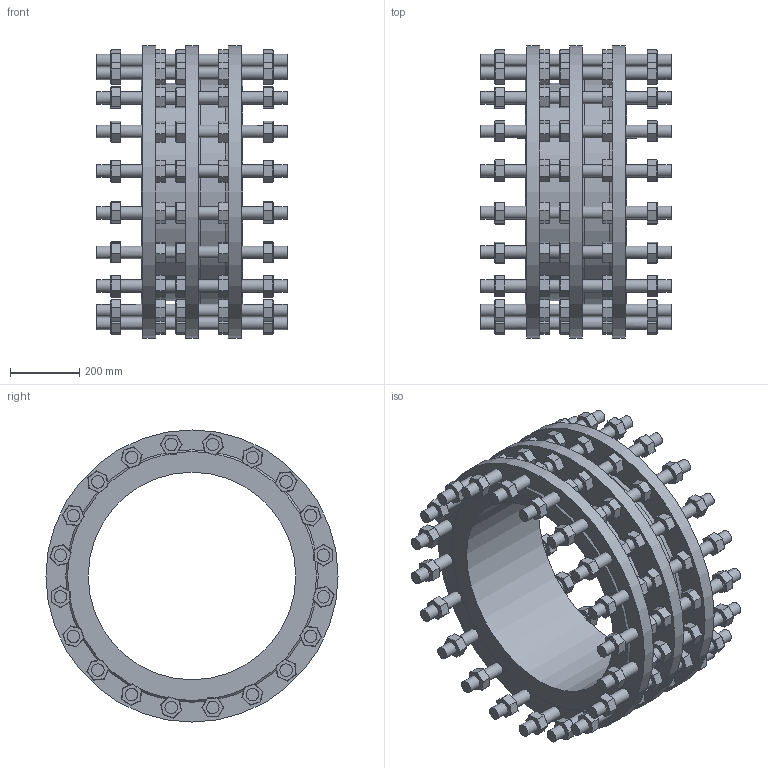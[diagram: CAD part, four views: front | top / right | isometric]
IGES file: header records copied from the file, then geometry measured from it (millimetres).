
Start section: SolidWorks IGES file using analytic representation for surfaces
Global section: file name: X:\AR\CV\873\873-0600-00-741000\873060000741000.IGS; native system: SolidWorks 2020; preprocessor: SolidWorks 2020; author: m.lucatello; date: 211105.105743; units: millimetre
Bounding box: 550 x 845 x 845 mm (x, y, z)
Surface area: 4794594.8 mm2 (no closed solid volume)
Topology: 0 solids, 0 shells, 2239 faces, 9426 edges, 9236 vertices
Faces by surface type: bspline 2049, revolution 190
